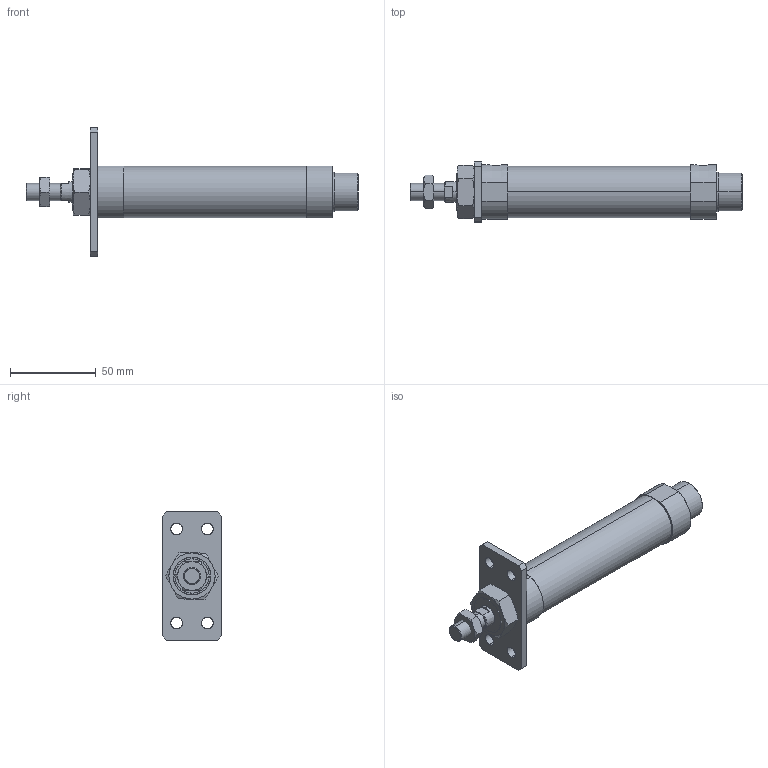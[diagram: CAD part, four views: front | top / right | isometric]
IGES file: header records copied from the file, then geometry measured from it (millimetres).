
Start section: SolidWorks IGES file using analytic representation for surfaces
Global section: file name: C:\Users\Toshiba\Desktop\J#2-25-75-A.IGS; native system: SolidWorks 2014; preprocessor: SolidWorks 2014; author: Toshiba; date: 160308.151232; units: millimetre
Bounding box: 194 x 35 x 75 mm (x, y, z)
Surface area: 27787.8 mm2 (no closed solid volume)
Topology: 0 solids, 0 shells, 117 faces, 2152 edges, 2148 vertices
Faces by surface type: bspline 71, revolution 46
